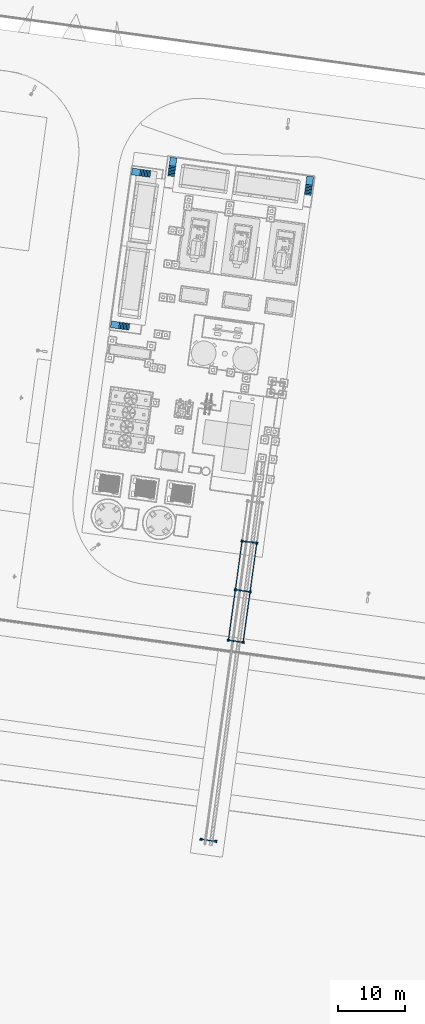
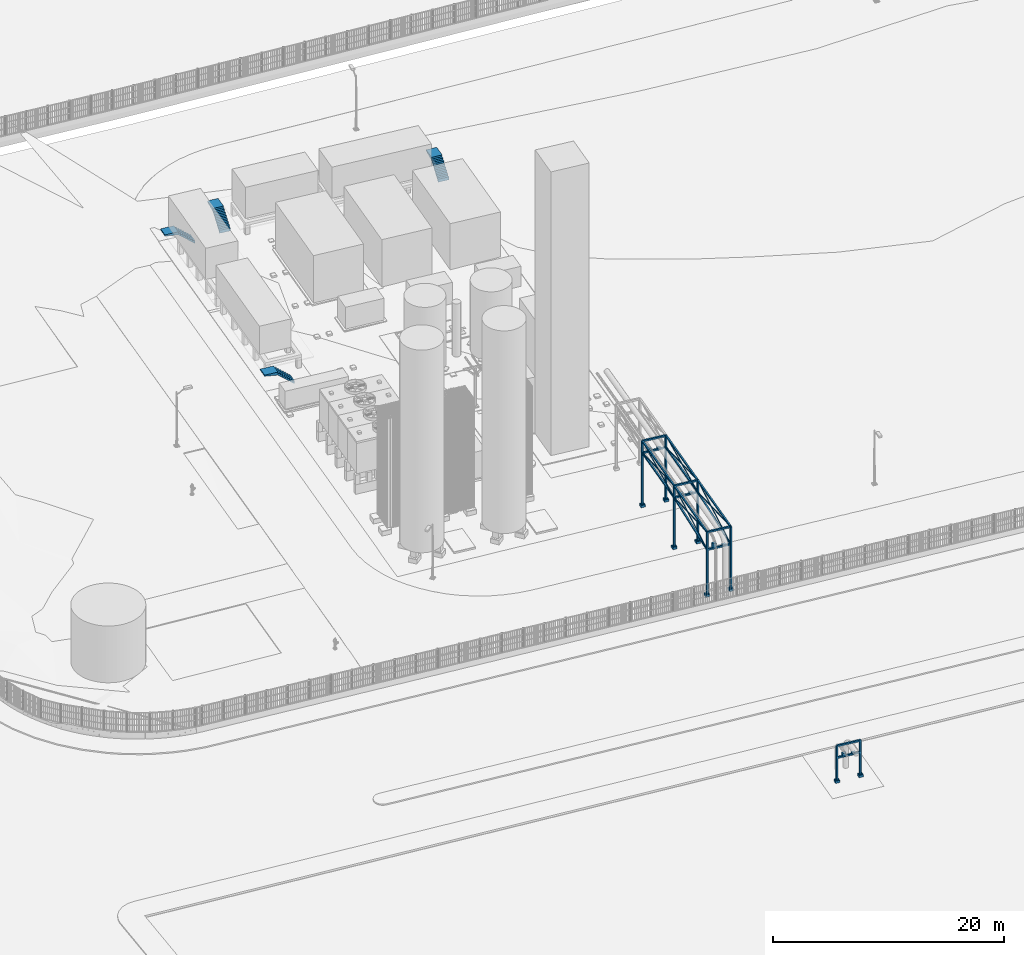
# Not in any storey, part 23 of 75: 6 assemblies, 4 stair flights.
"""IFC4 model written with IfcOpenShell, lengths in metres."""

from ifc_helpers import new_model, si_unit, direction, origin, origin_with_axes, place, context, subcontext, project, spatial, triangles, element, save


model = new_model("IFC4")

# Units and contexts
model_context = context("Model", 3, precision=1e-05, world=origin_with_axes(), true_north=direction((0.0, 1.0)))
body_context = subcontext(model_context, "Body", "Model", "MODEL_VIEW")
ifc_project = project(units=[si_unit("AREAUNIT", "SQUARE_METRE"), si_unit("VOLUMEUNIT", "CUBIC_METRE"), si_unit("LENGTHUNIT", "METRE")], contexts=[model_context])

# Site
site_placement = place(None, origin_with_axes())
site = spatial("IfcSite", under=ifc_project, at=site_placement, Name="Parcela industrial Jinhong")

# Stair flights
stair_flight_1_placement = place(None, origin())
element("IfcStairFlight", 1, at=stair_flight_1_placement, inside=site, Name="Cimentación y plataforma del módulo LV-CONTAINER · escalera de acceso · 8 contrahuellas", ObjectType="Cimentación industrial", PredefinedType="USERDEFINED", context=body_context, shape_type="Tessellation", body=[
    triangles([(41.107362, 82.889179, 2.281109), (41.325311, 82.859214, 2.4125), (41.325311, 82.859214, 2.225), (41.543261, 82.82925, 2.225), (41.543261, 82.82925, 2.0375), (41.761211, 82.799285, 2.0375), (41.761211, 82.799285, 1.85), (41.979161, 82.76932, 1.85), (41.979161, 82.76932, 1.6625), (42.197111, 82.739355, 1.6625), (42.197111, 82.739355, 1.475), (42.41506, 82.70939, 1.475), (42.41506, 82.70939, 1.2875), (42.63301, 82.679425, 1.2875), (42.63301, 82.679425, 0.968609), (41.107362, 82.889179, 2.6), (39.869011, 83.059434, 2.48), (39.869011, 83.059434, 2.6), (41.107362, 82.889179, 2.4125), (41.243566, 83.87986, 2.281109), (41.461515, 83.849895, 2.4125), (41.461515, 83.849895, 2.225), (41.679465, 83.81993, 2.225), (41.679465, 83.81993, 2.0375), (41.897415, 83.789966, 2.0375), (41.897415, 83.789966, 1.85), (42.115365, 83.760001, 1.85), (42.115365, 83.760001, 1.6625), (42.333314, 83.730036, 1.6625), (42.333314, 83.730036, 1.475), (42.551264, 83.700071, 1.475), (42.551264, 83.700071, 1.2875), (42.769214, 83.670106, 1.2875), (42.769214, 83.670106, 0.968609), (41.243566, 83.87986, 2.6), (40.005215, 84.050115, 2.48), (40.005215, 84.050115, 2.6), (41.243566, 83.87986, 2.4125)], [[3, 2, 1], [5, 4, 3], [7, 6, 5], [9, 8, 7], [11, 10, 9], [13, 12, 11], [15, 14, 13], [18, 17, 16], [19, 16, 17], [13, 11, 15], [1, 15, 9], [1, 19, 17], [11, 9, 15], [19, 1, 2], [1, 9, 7], [5, 3, 1], [1, 7, 5], [20, 21, 22], [22, 23, 24], [24, 25, 26], [26, 27, 28], [28, 29, 30], [30, 31, 32], [32, 33, 34], [35, 36, 37], [36, 35, 38], [34, 30, 32], [28, 34, 20], [36, 38, 20], [34, 28, 30], [21, 20, 38], [26, 28, 20], [20, 22, 24], [24, 26, 20], [2, 22, 21], [3, 22, 2], [3, 23, 22], [4, 23, 3], [4, 24, 23], [5, 24, 4], [5, 25, 24], [6, 25, 5], [6, 26, 25], [7, 26, 6], [7, 27, 26], [8, 27, 7], [8, 28, 27], [9, 28, 8], [9, 29, 28], [10, 29, 9], [10, 30, 29], [11, 30, 10], [11, 31, 30], [12, 31, 11], [12, 32, 31], [13, 32, 12], [13, 33, 32], [14, 33, 13], [15, 20, 34], [1, 20, 15], [14, 34, 33], [15, 34, 14], [1, 36, 20], [17, 36, 1], [18, 35, 37], [16, 35, 18], [17, 37, 36], [18, 37, 17], [19, 21, 38], [2, 21, 19], [16, 38, 35], [19, 38, 16]], closed=True),
])
stair_flight_2_placement = place(None, origin())
element("IfcStairFlight", 2, at=stair_flight_2_placement, inside=site, Name="Cimentación y plataforma del módulo HV-CONTAINER · escalera de acceso · 8 contrahuellas", ObjectType="Cimentación industrial", PredefinedType="USERDEFINED", context=body_context, shape_type="Tessellation", body=[
    triangles([(65.718009, 81.65057, 2.281109), (65.688044, 81.43262, 2.4125), (65.688044, 81.43262, 2.225), (65.658079, 81.21467, 2.225), (65.658079, 81.21467, 2.0375), (65.628115, 80.99672, 2.0375), (65.628115, 80.99672, 1.85), (65.59815, 80.778771, 1.85), (65.59815, 80.778771, 1.6625), (65.568185, 80.560821, 1.6625), (65.568185, 80.560821, 1.475), (65.53822, 80.342871, 1.475), (65.53822, 80.342871, 1.2875), (65.508255, 80.124921, 1.2875), (65.508255, 80.124921, 0.968609), (65.718009, 81.65057, 2.6), (65.888264, 82.888921, 2.48), (65.888264, 82.888921, 2.6), (65.718009, 81.65057, 2.4125), (66.70869, 81.514366, 2.281109), (66.678725, 81.296416, 2.4125), (66.678725, 81.296416, 2.225), (66.64876, 81.078466, 2.225), (66.64876, 81.078466, 2.0375), (66.618795, 80.860516, 2.0375), (66.618795, 80.860516, 1.85), (66.588831, 80.642567, 1.85), (66.588831, 80.642567, 1.6625), (66.558866, 80.424617, 1.6625), (66.558866, 80.424617, 1.475), (66.528901, 80.206667, 1.475), (66.528901, 80.206667, 1.2875), (66.498936, 79.988717, 1.2875), (66.498936, 79.988717, 0.968609), (66.70869, 81.514366, 2.6), (66.878945, 82.752717, 2.48), (66.878945, 82.752717, 2.6), (66.70869, 81.514366, 2.4125)], [[3, 2, 1], [5, 4, 3], [7, 6, 5], [9, 8, 7], [11, 10, 9], [13, 12, 11], [15, 14, 13], [18, 17, 16], [19, 16, 17], [13, 11, 15], [1, 15, 9], [1, 19, 17], [11, 9, 15], [19, 1, 2], [1, 9, 7], [5, 3, 1], [1, 7, 5], [20, 21, 22], [22, 23, 24], [24, 25, 26], [26, 27, 28], [28, 29, 30], [30, 31, 32], [32, 33, 34], [35, 36, 37], [36, 35, 38], [34, 30, 32], [28, 34, 20], [36, 38, 20], [34, 28, 30], [21, 20, 38], [26, 28, 20], [20, 22, 24], [24, 26, 20], [2, 22, 21], [3, 22, 2], [3, 23, 22], [4, 23, 3], [4, 24, 23], [5, 24, 4], [5, 25, 24], [6, 25, 5], [6, 26, 25], [7, 26, 6], [7, 27, 26], [8, 27, 7], [8, 28, 27], [9, 28, 8], [9, 29, 28], [10, 29, 9], [10, 30, 29], [11, 30, 10], [11, 31, 30], [12, 31, 11], [12, 32, 31], [13, 32, 12], [13, 33, 32], [14, 33, 13], [15, 20, 34], [1, 20, 15], [14, 34, 33], [15, 34, 14], [1, 36, 20], [17, 36, 1], [18, 35, 37], [16, 35, 18], [17, 37, 36], [18, 37, 17], [19, 21, 38], [2, 21, 19], [16, 38, 35], [19, 38, 16]], closed=True),
])
stair_flight_3_placement = place(None, origin())
element("IfcStairFlight", 3, at=stair_flight_3_placement, inside=site, Name="Cimentación y plataforma del módulo IC-CONTAINER · escalera de acceso · 8 contrahuellas", ObjectType="Cimentación industrial", PredefinedType="USERDEFINED", context=body_context, shape_type="Tessellation", body=[
    triangles([(37.991697, 60.227356, 2.281109), (38.209647, 60.197391, 2.4125), (38.209647, 60.197391, 2.225), (38.427596, 60.167426, 2.225), (38.427596, 60.167426, 2.0375), (38.645546, 60.137461, 2.0375), (38.645546, 60.137461, 1.85), (38.863496, 60.107496, 1.85), (38.863496, 60.107496, 1.6625), (39.081446, 60.077531, 1.6625), (39.081446, 60.077531, 1.475), (39.299396, 60.047566, 1.475), (39.299396, 60.047566, 1.2875), (39.517345, 60.017602, 1.2875), (39.517345, 60.017602, 0.968609), (37.991697, 60.227356, 2.6), (36.753346, 60.39761, 2.48), (36.753346, 60.39761, 2.6), (37.991697, 60.227356, 2.4125), (38.127901, 61.218036, 2.281109), (38.345851, 61.188072, 2.4125), (38.345851, 61.188072, 2.225), (38.5638, 61.158107, 2.225), (38.5638, 61.158107, 2.0375), (38.78175, 61.128142, 2.0375), (38.78175, 61.128142, 1.85), (38.9997, 61.098177, 1.85), (38.9997, 61.098177, 1.6625), (39.21765, 61.068212, 1.6625), (39.21765, 61.068212, 1.475), (39.435599, 61.038247, 1.475), (39.435599, 61.038247, 1.2875), (39.653549, 61.008282, 1.2875), (39.653549, 61.008282, 0.968609), (38.127901, 61.218036, 2.6), (36.88955, 61.388291, 2.48), (36.88955, 61.388291, 2.6), (38.127901, 61.218036, 2.4125)], [[3, 2, 1], [5, 4, 3], [7, 6, 5], [9, 8, 7], [11, 10, 9], [13, 12, 11], [15, 14, 13], [18, 17, 16], [19, 16, 17], [13, 11, 15], [1, 15, 9], [1, 19, 17], [11, 9, 15], [19, 1, 2], [1, 9, 7], [5, 3, 1], [1, 7, 5], [20, 21, 22], [22, 23, 24], [24, 25, 26], [26, 27, 28], [28, 29, 30], [30, 31, 32], [32, 33, 34], [35, 36, 37], [36, 35, 38], [34, 30, 32], [28, 34, 20], [36, 38, 20], [34, 28, 30], [21, 20, 38], [26, 28, 20], [20, 22, 24], [24, 26, 20], [2, 22, 21], [3, 22, 2], [3, 23, 22], [4, 23, 3], [4, 24, 23], [5, 24, 4], [5, 25, 24], [6, 25, 5], [6, 26, 25], [7, 26, 6], [7, 27, 26], [8, 27, 7], [8, 28, 27], [9, 28, 8], [9, 29, 28], [10, 29, 9], [10, 30, 29], [11, 30, 10], [11, 31, 30], [12, 31, 11], [12, 32, 31], [13, 32, 12], [13, 33, 32], [14, 33, 13], [15, 20, 34], [1, 20, 15], [14, 34, 33], [15, 34, 14], [1, 36, 20], [17, 36, 1], [18, 35, 37], [16, 35, 18], [17, 37, 36], [18, 37, 17], [19, 21, 38], [2, 21, 19], [16, 38, 35], [19, 38, 16]], closed=True),
])
stair_flight_4_placement = place(None, origin())
element("IfcStairFlight", 4, at=stair_flight_4_placement, inside=site, Name="Cimentación y plataforma del módulo MV-CONTAINER · escalera de acceso · 8 contrahuellas", ObjectType="Cimentación industrial", PredefinedType="USERDEFINED", context=body_context, shape_type="Tessellation", body=[
    triangles([(45.458091, 84.436008, 2.281109), (45.428126, 84.218058, 2.4125), (45.428126, 84.218058, 2.225), (45.398161, 84.000109, 2.225), (45.398161, 84.000109, 2.0375), (45.368196, 83.782159, 2.0375), (45.368196, 83.782159, 1.85), (45.338232, 83.564209, 1.85), (45.338232, 83.564209, 1.6625), (45.308267, 83.346259, 1.6625), (45.308267, 83.346259, 1.475), (45.278302, 83.128309, 1.475), (45.278302, 83.128309, 1.2875), (45.248337, 82.91036, 1.2875), (45.248337, 82.91036, 0.968609), (45.458091, 84.436008, 2.6), (45.628346, 85.674359, 2.48), (45.628346, 85.674359, 2.6), (45.458091, 84.436008, 2.4125), (46.448772, 84.299804, 2.281109), (46.418807, 84.081854, 2.4125), (46.418807, 84.081854, 2.225), (46.388842, 83.863905, 2.225), (46.388842, 83.863905, 2.0375), (46.358877, 83.645955, 2.0375), (46.358877, 83.645955, 1.85), (46.328912, 83.428005, 1.85), (46.328912, 83.428005, 1.6625), (46.298948, 83.210055, 1.6625), (46.298948, 83.210055, 1.475), (46.268983, 82.992105, 1.475), (46.268983, 82.992105, 1.2875), (46.239018, 82.774156, 1.2875), (46.239018, 82.774156, 0.968609), (46.448772, 84.299804, 2.6), (46.619027, 85.538155, 2.48), (46.619027, 85.538155, 2.6), (46.448772, 84.299804, 2.4125)], [[3, 2, 1], [5, 4, 3], [7, 6, 5], [9, 8, 7], [11, 10, 9], [13, 12, 11], [15, 14, 13], [18, 17, 16], [19, 16, 17], [13, 11, 15], [1, 15, 9], [1, 19, 17], [11, 9, 15], [19, 1, 2], [1, 9, 7], [5, 3, 1], [1, 7, 5], [20, 21, 22], [22, 23, 24], [24, 25, 26], [26, 27, 28], [28, 29, 30], [30, 31, 32], [32, 33, 34], [35, 36, 37], [36, 35, 38], [34, 30, 32], [28, 34, 20], [36, 38, 20], [34, 28, 30], [21, 20, 38], [26, 28, 20], [20, 22, 24], [24, 26, 20], [2, 22, 21], [3, 22, 2], [3, 23, 22], [4, 23, 3], [4, 24, 23], [5, 24, 4], [5, 25, 24], [6, 25, 5], [6, 26, 25], [7, 26, 6], [7, 27, 26], [8, 27, 7], [8, 28, 27], [9, 28, 8], [9, 29, 28], [10, 29, 9], [10, 30, 29], [11, 30, 10], [11, 31, 30], [12, 31, 11], [12, 32, 31], [13, 32, 12], [13, 33, 32], [14, 33, 13], [15, 20, 34], [1, 20, 15], [14, 34, 33], [15, 34, 14], [1, 36, 20], [17, 36, 1], [18, 35, 37], [16, 35, 18], [17, 37, 36], [18, 37, 17], [19, 21, 38], [2, 21, 19], [16, 38, 35], [19, 38, 16]], closed=True),
])

# Assemblies
assembly_1_placement = place(None, origin())
element("IfcElementAssembly", 5, at=assembly_1_placement, inside=site, Name="Pórtico metálico de tuberías · 2", ObjectType="Pórtico metálico de tuberías · 2", PredefinedType="USERDEFINED", context=body_context, shape_type="Tessellation", body=[
    triangles([(56.104909, 28.987031, 1.1), (56.104909, 28.987031, 1.34), (56.501182, 28.93255, 1.1), (56.501182, 28.93255, 1.34), (56.050428, 28.590759, 1.1), (56.050428, 28.590759, 1.34), (56.4467, 28.536277, 1.1), (56.4467, 28.536277, 1.34)], [[2, 4, 1], [5, 2, 1], [1, 4, 3], [3, 5, 1], [2, 8, 4], [6, 2, 5], [6, 8, 2], [4, 8, 3], [7, 5, 3], [3, 8, 7], [7, 6, 5], [8, 6, 7]], closed=True),
    triangles([(56.195805, 28.681654, 1.34), (56.195805, 28.681654, 8.0), (56.195805, 28.841654, 1.34), (56.195805, 28.841654, 8.0), (56.355805, 28.681654, 1.34), (56.355805, 28.681654, 8.0), (56.355805, 28.841654, 1.34), (56.355805, 28.841654, 8.0)], [[2, 4, 1], [5, 2, 1], [1, 4, 3], [3, 5, 1], [2, 8, 4], [6, 2, 5], [6, 8, 2], [4, 8, 3], [7, 5, 3], [3, 8, 7], [7, 6, 5], [8, 6, 7]], closed=True),
    triangles([(56.156178, 28.919418, 1.34), (56.156178, 28.919418, 1.37), (56.433568, 28.881281, 1.34), (56.433568, 28.881281, 1.37), (56.118041, 28.642028, 1.34), (56.118041, 28.642028, 1.37), (56.395431, 28.60389, 1.34), (56.395431, 28.60389, 1.37)], [[2, 4, 1], [5, 2, 1], [1, 4, 3], [3, 5, 1], [2, 8, 4], [6, 2, 5], [6, 8, 2], [4, 8, 3], [7, 5, 3], [3, 8, 7], [7, 6, 5], [8, 6, 7]], closed=True),
    triangles([(58.284407, 28.687383, 1.1), (58.284407, 28.687383, 1.34), (58.680679, 28.632901, 1.1), (58.680679, 28.632901, 1.34), (58.229925, 28.29111, 1.1), (58.229925, 28.29111, 1.34), (58.626198, 28.236629, 1.1), (58.626198, 28.236629, 1.34)], [[2, 4, 1], [5, 2, 1], [1, 4, 3], [3, 5, 1], [2, 8, 4], [6, 2, 5], [6, 8, 2], [4, 8, 3], [7, 5, 3], [3, 8, 7], [7, 6, 5], [8, 6, 7]], closed=True),
    triangles([(58.375302, 28.382006, 1.34), (58.375302, 28.382006, 8.0), (58.375302, 28.542006, 1.34), (58.375302, 28.542006, 8.0), (58.535302, 28.382006, 1.34), (58.535302, 28.382006, 8.0), (58.535302, 28.542006, 1.34), (58.535302, 28.542006, 8.0)], [[2, 4, 1], [5, 2, 1], [1, 4, 3], [3, 5, 1], [2, 8, 4], [6, 2, 5], [6, 8, 2], [4, 8, 3], [7, 5, 3], [3, 8, 7], [7, 6, 5], [8, 6, 7]], closed=True),
    triangles([(58.335676, 28.61977, 1.34), (58.335676, 28.61977, 1.37), (58.613066, 28.581633, 1.34), (58.613066, 28.581633, 1.37), (58.297539, 28.342379, 1.34), (58.297539, 28.342379, 1.37), (58.574929, 28.304242, 1.34), (58.574929, 28.304242, 1.37)], [[2, 4, 1], [5, 2, 1], [1, 4, 3], [3, 5, 1], [2, 8, 4], [6, 2, 5], [6, 8, 2], [4, 8, 3], [7, 5, 3], [3, 8, 7], [7, 6, 5], [8, 6, 7]], closed=True),
    triangles([(56.264908, 28.6824, 6.83), (58.444406, 28.382751, 6.83), (56.286701, 28.840909, 6.83), (58.466199, 28.54126, 6.83), (56.264908, 28.6824, 6.67), (58.444406, 28.382751, 6.67), (56.286701, 28.840909, 6.67), (58.466199, 28.54126, 6.67)], [[2, 4, 1], [5, 2, 1], [1, 4, 3], [3, 5, 1], [2, 8, 4], [6, 2, 5], [6, 8, 2], [4, 8, 3], [7, 5, 3], [3, 8, 7], [7, 6, 5], [8, 6, 7]], closed=True),
    triangles([(56.264908, 28.6824, 8.08), (58.444406, 28.382751, 8.08), (56.286701, 28.840909, 8.08), (58.466199, 28.54126, 8.08), (56.264908, 28.6824, 7.92), (58.444406, 28.382751, 7.92), (56.286701, 28.840909, 7.92), (58.466199, 28.54126, 7.92)], [[2, 4, 1], [5, 2, 1], [1, 4, 3], [3, 5, 1], [2, 8, 4], [6, 2, 5], [6, 8, 2], [4, 8, 3], [7, 5, 3], [3, 8, 7], [7, 6, 5], [8, 6, 7]], closed=True),
    triangles([(57.660651, 28.702481, 6.83), (57.660651, 28.702481, 6.95), (57.997482, 28.656172, 6.83), (57.997482, 28.656172, 6.95), (57.625238, 28.444904, 6.83), (57.625238, 28.444904, 6.95), (57.962069, 28.398595, 6.83), (57.962069, 28.398595, 6.95)], [[2, 4, 1], [5, 2, 1], [1, 4, 3], [3, 5, 1], [2, 8, 4], [6, 2, 5], [6, 8, 2], [4, 8, 3], [7, 5, 3], [3, 8, 7], [7, 6, 5], [8, 6, 7]], closed=True),
    triangles([(56.769038, 28.825065, 6.83), (56.769038, 28.825065, 7.1), (57.105869, 28.778756, 6.83), (57.105869, 28.778756, 7.1), (56.733625, 28.567488, 6.83), (56.733625, 28.567488, 7.1), (57.070456, 28.521179, 6.83), (57.070456, 28.521179, 7.1)], [[2, 4, 1], [5, 2, 1], [1, 4, 3], [3, 5, 1], [2, 8, 4], [6, 2, 5], [6, 8, 2], [4, 8, 3], [7, 5, 3], [3, 8, 7], [7, 6, 5], [8, 6, 7]], closed=True),
])
assembly_2_placement = place(None, origin())
element("IfcElementAssembly", 6, at=assembly_2_placement, inside=site, Name="Pórtico metálico de tuberías · 3", ObjectType="Pórtico metálico de tuberías · 3", PredefinedType="USERDEFINED", context=body_context, shape_type="Tessellation", body=[
    triangles([(55.110621, 21.755061, 1.401735), (55.110621, 21.755061, 1.641735), (55.506893, 21.70058, 1.401735), (55.506893, 21.70058, 1.641735), (55.056139, 21.358789, 1.401735), (55.056139, 21.358789, 1.641735), (55.452412, 21.304307, 1.401735), (55.452412, 21.304307, 1.641735)], [[2, 4, 1], [5, 2, 1], [1, 4, 3], [3, 5, 1], [2, 8, 4], [6, 2, 5], [6, 8, 2], [4, 8, 3], [7, 5, 3], [3, 8, 7], [7, 6, 5], [8, 6, 7]], closed=True),
    triangles([(55.201516, 21.449684, 1.641735), (55.201516, 21.449684, 8.0), (55.201516, 21.609684, 1.641735), (55.201516, 21.609684, 8.0), (55.361516, 21.449684, 1.641735), (55.361516, 21.449684, 8.0), (55.361516, 21.609684, 1.641735), (55.361516, 21.609684, 8.0)], [[2, 4, 1], [5, 2, 1], [1, 4, 3], [3, 5, 1], [2, 8, 4], [6, 2, 5], [6, 8, 2], [4, 8, 3], [7, 5, 3], [3, 8, 7], [7, 6, 5], [8, 6, 7]], closed=True),
    triangles([(55.161889, 21.687448, 1.641735), (55.161889, 21.687448, 1.671735), (55.43928, 21.649311, 1.641735), (55.43928, 21.649311, 1.671735), (55.123752, 21.410058, 1.641735), (55.123752, 21.410058, 1.671735), (55.401143, 21.37192, 1.641735), (55.401143, 21.37192, 1.671735)], [[2, 4, 1], [5, 2, 1], [1, 4, 3], [3, 5, 1], [2, 8, 4], [6, 2, 5], [6, 8, 2], [4, 8, 3], [7, 5, 3], [3, 8, 7], [7, 6, 5], [8, 6, 7]], closed=True),
    triangles([(57.290119, 21.455413, 1.420496), (57.290119, 21.455413, 1.660496), (57.686391, 21.400931, 1.420496), (57.686391, 21.400931, 1.660496), (57.235637, 21.05914, 1.420496), (57.235637, 21.05914, 1.660496), (57.631909, 21.004659, 1.420496), (57.631909, 21.004659, 1.660496)], [[2, 4, 1], [5, 2, 1], [1, 4, 3], [3, 5, 1], [2, 8, 4], [6, 2, 5], [6, 8, 2], [4, 8, 3], [7, 5, 3], [3, 8, 7], [7, 6, 5], [8, 6, 7]], closed=True),
    triangles([(57.381014, 21.150036, 1.660496), (57.381014, 21.150036, 8.0), (57.381014, 21.310036, 1.660496), (57.381014, 21.310036, 8.0), (57.541014, 21.150036, 1.660496), (57.541014, 21.150036, 8.0), (57.541014, 21.310036, 1.660496), (57.541014, 21.310036, 8.0)], [[2, 4, 1], [5, 2, 1], [1, 4, 3], [3, 5, 1], [2, 8, 4], [6, 2, 5], [6, 8, 2], [4, 8, 3], [7, 5, 3], [3, 8, 7], [7, 6, 5], [8, 6, 7]], closed=True),
    triangles([(57.341387, 21.3878, 1.660496), (57.341387, 21.3878, 1.690496), (57.618778, 21.349663, 1.660496), (57.618778, 21.349663, 1.690496), (57.30325, 21.110409, 1.660496), (57.30325, 21.110409, 1.690496), (57.580641, 21.072272, 1.660496), (57.580641, 21.072272, 1.690496)], [[2, 4, 1], [5, 2, 1], [1, 4, 3], [3, 5, 1], [2, 8, 4], [6, 2, 5], [6, 8, 2], [4, 8, 3], [7, 5, 3], [3, 8, 7], [7, 6, 5], [8, 6, 7]], closed=True),
    triangles([(55.27062, 21.45043, 6.83), (57.450118, 21.150781, 6.83), (55.292413, 21.608939, 6.83), (57.47191, 21.30929, 6.83), (55.27062, 21.45043, 6.67), (57.450118, 21.150781, 6.67), (55.292413, 21.608939, 6.67), (57.47191, 21.30929, 6.67)], [[2, 4, 1], [5, 2, 1], [1, 4, 3], [3, 5, 1], [2, 8, 4], [6, 2, 5], [6, 8, 2], [4, 8, 3], [7, 5, 3], [3, 8, 7], [7, 6, 5], [8, 6, 7]], closed=True),
    triangles([(55.27062, 21.45043, 8.08), (57.450118, 21.150781, 8.08), (55.292413, 21.608939, 8.08), (57.47191, 21.30929, 8.08), (55.27062, 21.45043, 7.92), (57.450118, 21.150781, 7.92), (55.292413, 21.608939, 7.92), (57.47191, 21.30929, 7.92)], [[2, 4, 1], [5, 2, 1], [1, 4, 3], [3, 5, 1], [2, 8, 4], [6, 2, 5], [6, 8, 2], [4, 8, 3], [7, 5, 3], [3, 8, 7], [7, 6, 5], [8, 6, 7]], closed=True),
    triangles([(56.666362, 21.470511, 6.83), (56.666362, 21.470511, 6.95), (57.003194, 21.424202, 6.83), (57.003194, 21.424202, 6.95), (56.630949, 21.212934, 6.83), (56.630949, 21.212934, 6.95), (56.967781, 21.166625, 6.83), (56.967781, 21.166625, 6.95)], [[2, 4, 1], [5, 2, 1], [1, 4, 3], [3, 5, 1], [2, 8, 4], [6, 2, 5], [6, 8, 2], [4, 8, 3], [7, 5, 3], [3, 8, 7], [7, 6, 5], [8, 6, 7]], closed=True),
    triangles([(55.77475, 21.593095, 6.83), (55.77475, 21.593095, 7.1), (56.111581, 21.546786, 6.83), (56.111581, 21.546786, 7.1), (55.739337, 21.335518, 6.83), (55.739337, 21.335518, 7.1), (56.076168, 21.289209, 6.83), (56.076168, 21.289209, 7.1)], [[2, 4, 1], [5, 2, 1], [1, 4, 3], [3, 5, 1], [2, 8, 4], [6, 2, 5], [6, 8, 2], [4, 8, 3], [7, 5, 3], [3, 8, 7], [7, 6, 5], [8, 6, 7]], closed=True),
])
assembly_3_placement = place(None, origin())
element("IfcElementAssembly", 7, at=assembly_3_placement, inside=site, Name="Pórtico metálico de tuberías · 4", ObjectType="Pórtico metálico de tuberías · 4", PredefinedType="USERDEFINED", context=body_context, shape_type="Tessellation", body=[
    triangles([(54.082282, 14.275421, 1.260606), (54.082282, 14.275421, 1.500606), (54.478554, 14.220939, 1.260606), (54.478554, 14.220939, 1.500606), (54.0278, 13.879149, 1.260606), (54.0278, 13.879149, 1.500606), (54.424072, 13.824667, 1.260606), (54.424072, 13.824667, 1.500606)], [[2, 4, 1], [5, 2, 1], [1, 4, 3], [3, 5, 1], [2, 8, 4], [6, 2, 5], [6, 8, 2], [4, 8, 3], [7, 5, 3], [3, 8, 7], [7, 6, 5], [8, 6, 7]], closed=True),
    triangles([(54.173177, 13.970044, 1.500606), (54.173177, 13.970044, 8.0), (54.173177, 14.130044, 1.500606), (54.173177, 14.130044, 8.0), (54.333177, 13.970044, 1.500606), (54.333177, 13.970044, 8.0), (54.333177, 14.130044, 1.500606), (54.333177, 14.130044, 8.0)], [[2, 4, 1], [5, 2, 1], [1, 4, 3], [3, 5, 1], [2, 8, 4], [6, 2, 5], [6, 8, 2], [4, 8, 3], [7, 5, 3], [3, 8, 7], [7, 6, 5], [8, 6, 7]], closed=True),
    triangles([(54.13355, 14.207808, 1.500606), (54.13355, 14.207808, 1.530606), (54.410941, 14.169671, 1.500606), (54.410941, 14.169671, 1.530606), (54.095413, 13.930417, 1.500606), (54.095413, 13.930417, 1.530606), (54.372804, 13.89228, 1.500606), (54.372804, 13.89228, 1.530606)], [[2, 4, 1], [5, 2, 1], [1, 4, 3], [3, 5, 1], [2, 8, 4], [6, 2, 5], [6, 8, 2], [4, 8, 3], [7, 5, 3], [3, 8, 7], [7, 6, 5], [8, 6, 7]], closed=True),
    triangles([(56.261779, 13.975772, 1.280845), (56.261779, 13.975772, 1.520845), (56.658052, 13.921291, 1.280845), (56.658052, 13.921291, 1.520845), (56.207298, 13.5795, 1.280845), (56.207298, 13.5795, 1.520845), (56.60357, 13.525019, 1.280845), (56.60357, 13.525019, 1.520845)], [[2, 4, 1], [5, 2, 1], [1, 4, 3], [3, 5, 1], [2, 8, 4], [6, 2, 5], [6, 8, 2], [4, 8, 3], [7, 5, 3], [3, 8, 7], [7, 6, 5], [8, 6, 7]], closed=True),
    triangles([(56.352675, 13.670395, 1.520845), (56.352675, 13.670395, 8.0), (56.352675, 13.830395, 1.520845), (56.352675, 13.830395, 8.0), (56.512675, 13.670395, 1.520845), (56.512675, 13.670395, 8.0), (56.512675, 13.830395, 1.520845), (56.512675, 13.830395, 8.0)], [[2, 4, 1], [5, 2, 1], [1, 4, 3], [3, 5, 1], [2, 8, 4], [6, 2, 5], [6, 8, 2], [4, 8, 3], [7, 5, 3], [3, 8, 7], [7, 6, 5], [8, 6, 7]], closed=True),
    triangles([(56.313048, 13.908159, 1.520845), (56.313048, 13.908159, 1.550845), (56.590439, 13.870022, 1.520845), (56.590439, 13.870022, 1.550845), (56.274911, 13.630769, 1.520845), (56.274911, 13.630769, 1.550845), (56.552302, 13.592632, 1.520845), (56.552302, 13.592632, 1.550845)], [[2, 4, 1], [5, 2, 1], [1, 4, 3], [3, 5, 1], [2, 8, 4], [6, 2, 5], [6, 8, 2], [4, 8, 3], [7, 5, 3], [3, 8, 7], [7, 6, 5], [8, 6, 7]], closed=True),
    triangles([(54.242281, 13.97079, 6.23), (56.421779, 13.671141, 6.23), (54.264073, 14.129298, 6.23), (56.443571, 13.82965, 6.23), (54.242281, 13.97079, 6.07), (56.421779, 13.671141, 6.07), (54.264073, 14.129298, 6.07), (56.443571, 13.82965, 6.07)], [[2, 4, 1], [5, 2, 1], [1, 4, 3], [3, 5, 1], [2, 8, 4], [6, 2, 5], [6, 8, 2], [4, 8, 3], [7, 5, 3], [3, 8, 7], [7, 6, 5], [8, 6, 7]], closed=True),
    triangles([(54.242281, 13.97079, 8.08), (56.421779, 13.671141, 8.08), (54.264073, 14.129298, 8.08), (56.443571, 13.82965, 8.08), (54.242281, 13.97079, 7.92), (56.421779, 13.671141, 7.92), (54.264073, 14.129298, 7.92), (56.443571, 13.82965, 7.92)], [[2, 4, 1], [5, 2, 1], [1, 4, 3], [3, 5, 1], [2, 8, 4], [6, 2, 5], [6, 8, 2], [4, 8, 3], [7, 5, 3], [3, 8, 7], [7, 6, 5], [8, 6, 7]], closed=True),
    triangles([(55.638023, 13.990871, 6.23), (55.638023, 13.990871, 6.347047), (55.974855, 13.944562, 6.23), (55.974855, 13.944562, 6.347047), (55.60261, 13.733294, 6.23), (55.60261, 13.733294, 6.347047), (55.939442, 13.686985, 6.23), (55.939442, 13.686985, 6.347047)], [[2, 4, 1], [5, 2, 1], [1, 4, 3], [3, 5, 1], [2, 8, 4], [6, 2, 5], [6, 8, 2], [4, 8, 3], [7, 5, 3], [3, 8, 7], [7, 6, 5], [8, 6, 7]], closed=True),
    triangles([(54.74641, 14.113455, 6.23), (54.74641, 14.113455, 6.701403), (55.083242, 14.067145, 6.23), (55.083242, 14.067145, 6.701403), (54.710997, 13.855878, 6.23), (54.710997, 13.855878, 6.701403), (55.047829, 13.809568, 6.23), (55.047829, 13.809568, 6.701403)], [[2, 4, 1], [5, 2, 1], [1, 4, 3], [3, 5, 1], [2, 8, 4], [6, 2, 5], [6, 8, 2], [4, 8, 3], [7, 5, 3], [3, 8, 7], [7, 6, 5], [8, 6, 7]], closed=True),
])
assembly_4_placement = place(None, origin())
element("IfcElementAssembly", 8, at=assembly_4_placement, inside=site, Name="Pórtico metálico de tuberías · salida exterior", ObjectType="Pórtico metálico de tuberías · salida exterior", PredefinedType="USERDEFINED", context=body_context, shape_type="Tessellation", body=[
    triangles([(50.024939, -15.235719, 0.89819), (50.024939, -15.235719, 1.13819), (50.421211, -15.290201, 0.89819), (50.421211, -15.290201, 1.13819), (49.970457, -15.631992, 0.89819), (49.970457, -15.631992, 1.13819), (50.36673, -15.686473, 0.89819), (50.36673, -15.686473, 1.13819)], [[2, 4, 1], [5, 2, 1], [1, 4, 3], [3, 5, 1], [2, 8, 4], [6, 2, 5], [6, 8, 2], [4, 8, 3], [7, 5, 3], [3, 8, 7], [7, 6, 5], [8, 6, 7]], closed=True),
    triangles([(50.115834, -15.541096, 1.13819), (50.115834, -15.541096, 4.717728), (50.115834, -15.381096, 1.13819), (50.115834, -15.381096, 4.717728), (50.275834, -15.541096, 1.13819), (50.275834, -15.541096, 4.717728), (50.275834, -15.381096, 1.13819), (50.275834, -15.381096, 4.717728)], [[2, 4, 1], [5, 2, 1], [1, 4, 3], [3, 5, 1], [2, 8, 4], [6, 2, 5], [6, 8, 2], [4, 8, 3], [7, 5, 3], [3, 8, 7], [7, 6, 5], [8, 6, 7]], closed=True),
    triangles([(50.076207, -15.303333, 1.13819), (50.076207, -15.303333, 1.16819), (50.353598, -15.34147, 1.13819), (50.353598, -15.34147, 1.16819), (50.03807, -15.580723, 1.13819), (50.03807, -15.580723, 1.16819), (50.315461, -15.61886, 1.13819), (50.315461, -15.61886, 1.16819)], [[2, 4, 1], [5, 2, 1], [1, 4, 3], [3, 5, 1], [2, 8, 4], [6, 2, 5], [6, 8, 2], [4, 8, 3], [7, 5, 3], [3, 8, 7], [7, 6, 5], [8, 6, 7]], closed=True),
    triangles([(52.204437, -15.535368, 0.922175), (52.204437, -15.535368, 1.162175), (52.600709, -15.58985, 0.922175), (52.600709, -15.58985, 1.162175), (52.149955, -15.93164, 0.922175), (52.149955, -15.93164, 1.162175), (52.546227, -15.986122, 0.922175), (52.546227, -15.986122, 1.162175)], [[2, 4, 1], [5, 2, 1], [1, 4, 3], [3, 5, 1], [2, 8, 4], [6, 2, 5], [6, 8, 2], [4, 8, 3], [7, 5, 3], [3, 8, 7], [7, 6, 5], [8, 6, 7]], closed=True),
    triangles([(52.295332, -15.840745, 1.162175), (52.295332, -15.840745, 4.717728), (52.295332, -15.680745, 1.162175), (52.295332, -15.680745, 4.717728), (52.455332, -15.840745, 1.162175), (52.455332, -15.840745, 4.717728), (52.455332, -15.680745, 1.162175), (52.455332, -15.680745, 4.717728)], [[2, 4, 1], [5, 2, 1], [1, 4, 3], [3, 5, 1], [2, 8, 4], [6, 2, 5], [6, 8, 2], [4, 8, 3], [7, 5, 3], [3, 8, 7], [7, 6, 5], [8, 6, 7]], closed=True),
    triangles([(52.255705, -15.602981, 1.162175), (52.255705, -15.602981, 1.192175), (52.533096, -15.641118, 1.162175), (52.533096, -15.641118, 1.192175), (52.217568, -15.880372, 1.162175), (52.217568, -15.880372, 1.192175), (52.494959, -15.918509, 1.162175), (52.494959, -15.918509, 1.192175)], [[2, 4, 1], [5, 2, 1], [1, 4, 3], [3, 5, 1], [2, 8, 4], [6, 2, 5], [6, 8, 2], [4, 8, 3], [7, 5, 3], [3, 8, 7], [7, 6, 5], [8, 6, 7]], closed=True),
    triangles([(50.184938, -15.540351, 3.547728), (52.364436, -15.839999, 3.547728), (50.206731, -15.381842, 3.547728), (52.386228, -15.68149, 3.547728), (50.184938, -15.540351, 3.387728), (52.364436, -15.839999, 3.387728), (50.206731, -15.381842, 3.387728), (52.386228, -15.68149, 3.387728)], [[2, 4, 1], [5, 2, 1], [1, 4, 3], [3, 5, 1], [2, 8, 4], [6, 2, 5], [6, 8, 2], [4, 8, 3], [7, 5, 3], [3, 8, 7], [7, 6, 5], [8, 6, 7]], closed=True),
    triangles([(50.184938, -15.540351, 4.797728), (52.364436, -15.839999, 4.797728), (50.206731, -15.381842, 4.797728), (52.386228, -15.68149, 4.797728), (50.184938, -15.540351, 4.637728), (52.364436, -15.839999, 4.637728), (50.206731, -15.381842, 4.637728), (52.386228, -15.68149, 4.637728)], [[2, 4, 1], [5, 2, 1], [1, 4, 3], [3, 5, 1], [2, 8, 4], [6, 2, 5], [6, 8, 2], [4, 8, 3], [7, 5, 3], [3, 8, 7], [7, 6, 5], [8, 6, 7]], closed=True),
    triangles([(51.58068, -15.520269, 3.547728), (51.58068, -15.520269, 3.667728), (51.917512, -15.566579, 3.547728), (51.917512, -15.566579, 3.667728), (51.545267, -15.777846, 3.547728), (51.545267, -15.777846, 3.667728), (51.882099, -15.824156, 3.547728), (51.882099, -15.824156, 3.667728)], [[2, 4, 1], [5, 2, 1], [1, 4, 3], [3, 5, 1], [2, 8, 4], [6, 2, 5], [6, 8, 2], [4, 8, 3], [7, 5, 3], [3, 8, 7], [7, 6, 5], [8, 6, 7]], closed=True),
    triangles([(50.689068, -15.397686, 3.547728), (50.689068, -15.397686, 3.817728), (51.025899, -15.443995, 3.547728), (51.025899, -15.443995, 3.817728), (50.653654, -15.655263, 3.547728), (50.653654, -15.655263, 3.817728), (50.990486, -15.701572, 3.547728), (50.990486, -15.701572, 3.817728)], [[2, 4, 1], [5, 2, 1], [1, 4, 3], [3, 5, 1], [2, 8, 4], [6, 2, 5], [6, 8, 2], [4, 8, 3], [7, 5, 3], [3, 8, 7], [7, 6, 5], [8, 6, 7]], closed=True),
])
assembly_5_placement = place(None, origin())
element("IfcElementAssembly", 9, at=assembly_5_placement, inside=site, Name="Vigas y arriostramiento lateral · tramo 2", ObjectType="Vigas y arriostramiento lateral · tramo 2", PredefinedType="USERDEFINED", context=body_context, shape_type="Tessellation", body=[
    triangles([(56.345152, 28.75212, 6.68), (55.350864, 21.52015, 6.68), (56.206457, 28.771189, 6.68), (55.212169, 21.539219, 6.68), (56.345152, 28.75212, 6.82), (55.350864, 21.52015, 6.82), (56.206457, 28.771189, 6.82), (55.212169, 21.539219, 6.82)], [[2, 4, 1], [5, 2, 1], [1, 4, 3], [3, 5, 1], [2, 8, 4], [6, 2, 5], [6, 8, 2], [4, 8, 3], [7, 5, 3], [3, 8, 7], [7, 6, 5], [8, 6, 7]], closed=True),
    triangles([(56.345152, 28.75212, 7.93), (55.350864, 21.52015, 7.93), (56.206457, 28.771189, 7.93), (55.212169, 21.539219, 7.93), (56.345152, 28.75212, 8.07), (55.350864, 21.52015, 8.07), (56.206457, 28.771189, 8.07), (55.212169, 21.539219, 8.07)], [[2, 4, 1], [5, 2, 1], [1, 4, 3], [3, 5, 1], [2, 8, 4], [6, 2, 5], [6, 8, 2], [4, 8, 3], [7, 5, 3], [3, 8, 7], [7, 6, 5], [8, 6, 7]], closed=True),
    triangles([(56.304074, 28.750991, 6.710794), (55.309786, 21.519021, 7.960794), (56.235721, 28.762147, 6.720964), (55.241433, 21.530177, 7.970964), (56.315888, 28.761162, 6.779036), (55.3216, 21.529192, 8.029036), (56.247535, 28.772318, 6.789206), (55.253247, 21.540347, 8.039206)], [[2, 4, 1], [5, 2, 1], [1, 4, 3], [3, 5, 1], [2, 8, 4], [6, 2, 5], [6, 8, 2], [4, 8, 3], [7, 5, 3], [3, 8, 7], [7, 6, 5], [8, 6, 7]], closed=True),
    triangles([(56.315888, 28.761162, 7.970964), (55.3216, 21.529192, 6.720964), (56.247535, 28.772318, 7.960794), (55.253247, 21.540347, 6.710794), (56.304074, 28.750991, 8.039206), (55.309786, 21.519021, 6.789206), (56.235721, 28.762147, 8.029036), (55.241433, 21.530177, 6.779036)], [[2, 4, 1], [5, 2, 1], [1, 4, 3], [3, 5, 1], [2, 8, 4], [6, 2, 5], [6, 8, 2], [4, 8, 3], [7, 5, 3], [3, 8, 7], [7, 6, 5], [8, 6, 7]], closed=True),
    triangles([(58.52465, 28.452472, 6.68), (57.530362, 21.220501, 6.68), (58.385955, 28.47154, 6.68), (57.391666, 21.23957, 6.68), (58.52465, 28.452472, 6.82), (57.530362, 21.220501, 6.82), (58.385955, 28.47154, 6.82), (57.391666, 21.23957, 6.82)], [[2, 4, 1], [5, 2, 1], [1, 4, 3], [3, 5, 1], [2, 8, 4], [6, 2, 5], [6, 8, 2], [4, 8, 3], [7, 5, 3], [3, 8, 7], [7, 6, 5], [8, 6, 7]], closed=True),
    triangles([(58.52465, 28.452472, 7.93), (57.530362, 21.220501, 7.93), (58.385955, 28.47154, 7.93), (57.391666, 21.23957, 7.93), (58.52465, 28.452472, 8.07), (57.530362, 21.220501, 8.07), (58.385955, 28.47154, 8.07), (57.391666, 21.23957, 8.07)], [[2, 4, 1], [5, 2, 1], [1, 4, 3], [3, 5, 1], [2, 8, 4], [6, 2, 5], [6, 8, 2], [4, 8, 3], [7, 5, 3], [3, 8, 7], [7, 6, 5], [8, 6, 7]], closed=True),
    triangles([(58.483572, 28.451343, 6.710794), (57.489283, 21.219373, 7.960794), (58.415219, 28.462498, 6.720964), (57.420931, 21.230528, 7.970964), (58.495386, 28.461514, 6.779036), (57.501098, 21.229543, 8.029036), (58.427033, 28.472669, 6.789206), (57.432745, 21.240699, 8.039206)], [[2, 4, 1], [5, 2, 1], [1, 4, 3], [3, 5, 1], [2, 8, 4], [6, 2, 5], [6, 8, 2], [4, 8, 3], [7, 5, 3], [3, 8, 7], [7, 6, 5], [8, 6, 7]], closed=True),
    triangles([(58.495386, 28.461514, 7.970964), (57.501098, 21.229543, 6.720964), (58.427033, 28.472669, 7.960794), (57.432745, 21.240699, 6.710794), (58.483572, 28.451343, 8.039206), (57.489283, 21.219373, 6.789206), (58.415219, 28.462498, 8.029036), (57.420931, 21.230528, 6.779036)], [[2, 4, 1], [5, 2, 1], [1, 4, 3], [3, 5, 1], [2, 8, 4], [6, 2, 5], [6, 8, 2], [4, 8, 3], [7, 5, 3], [3, 8, 7], [7, 6, 5], [8, 6, 7]], closed=True),
])
assembly_6_placement = place(None, origin())
element("IfcElementAssembly", 10, at=assembly_6_placement, inside=site, Name="Vigas y arriostramiento lateral · tramo 3", ObjectType="Vigas y arriostramiento lateral · tramo 3", PredefinedType="USERDEFINED", context=body_context, shape_type="Tessellation", body=[
    triangles([(55.356191, 21.524615, 6.685209), (54.327852, 14.044975, 6.085209), (55.217932, 21.544397, 6.675565), (54.189593, 14.064757, 6.075565), (55.345101, 21.514971, 6.824435), (54.316761, 14.035331, 6.224435), (55.206841, 21.534754, 6.814791), (54.178502, 14.055113, 6.214791)], [[2, 4, 1], [5, 2, 1], [1, 4, 3], [3, 5, 1], [2, 8, 4], [6, 2, 5], [6, 8, 2], [4, 8, 3], [7, 5, 3], [3, 8, 7], [7, 6, 5], [8, 6, 7]], closed=True),
    triangles([(55.350864, 21.52015, 7.93), (54.322525, 14.04051, 7.93), (55.212169, 21.539219, 7.93), (54.183829, 14.059578, 7.93), (55.350864, 21.52015, 8.07), (54.322525, 14.04051, 8.07), (55.212169, 21.539219, 8.07), (54.183829, 14.059578, 8.07)], [[2, 4, 1], [5, 2, 1], [1, 4, 3], [3, 5, 1], [2, 8, 4], [6, 2, 5], [6, 8, 2], [4, 8, 3], [7, 5, 3], [3, 8, 7], [7, 6, 5], [8, 6, 7]], closed=True),
    triangles([(55.310008, 21.519232, 6.710898), (54.281668, 14.039592, 7.960898), (55.241591, 21.530285, 6.720749), (54.213252, 14.050645, 7.970749), (55.321441, 21.529084, 6.779251), (54.293102, 14.049443, 8.029251), (55.253025, 21.540136, 6.789102), (54.224686, 14.060496, 8.039102)], [[2, 4, 1], [5, 2, 1], [1, 4, 3], [3, 5, 1], [2, 8, 4], [6, 2, 5], [6, 8, 2], [4, 8, 3], [7, 5, 3], [3, 8, 7], [7, 6, 5], [8, 6, 7]], closed=True),
    triangles([(55.323524, 21.530382, 7.973829), (54.295184, 14.050742, 6.123829), (55.256168, 21.543144, 7.959672), (54.227829, 14.063504, 6.109672), (55.306864, 21.516225, 8.040328), (54.278525, 14.036584, 6.190328), (55.239509, 21.528987, 8.026171), (54.21117, 14.049346, 6.176171)], [[2, 4, 1], [5, 2, 1], [1, 4, 3], [3, 5, 1], [2, 8, 4], [6, 2, 5], [6, 8, 2], [4, 8, 3], [7, 5, 3], [3, 8, 7], [7, 6, 5], [8, 6, 7]], closed=True),
    triangles([(57.535689, 21.224966, 6.685209), (56.50735, 13.745326, 6.085209), (57.39743, 21.244749, 6.675565), (56.369091, 13.765108, 6.075565), (57.524598, 21.215323, 6.824435), (56.496259, 13.735683, 6.224435), (57.386339, 21.235105, 6.814791), (56.358, 13.755465, 6.214791)], [[2, 4, 1], [5, 2, 1], [1, 4, 3], [3, 5, 1], [2, 8, 4], [6, 2, 5], [6, 8, 2], [4, 8, 3], [7, 5, 3], [3, 8, 7], [7, 6, 5], [8, 6, 7]], closed=True),
    triangles([(57.530362, 21.220501, 7.93), (56.502022, 13.740861, 7.93), (57.391666, 21.23957, 7.93), (56.363327, 13.75993, 7.93), (57.530362, 21.220501, 8.07), (56.502022, 13.740861, 8.07), (57.391666, 21.23957, 8.07), (56.363327, 13.75993, 8.07)], [[2, 4, 1], [5, 2, 1], [1, 4, 3], [3, 5, 1], [2, 8, 4], [6, 2, 5], [6, 8, 2], [4, 8, 3], [7, 5, 3], [3, 8, 7], [7, 6, 5], [8, 6, 7]], closed=True),
    triangles([(57.489505, 21.219584, 6.710898), (56.461166, 13.739944, 7.960898), (57.421089, 21.230636, 6.720749), (56.39275, 13.750996, 7.970749), (57.500939, 21.229435, 6.779251), (56.4726, 13.749795, 8.029251), (57.432523, 21.240488, 6.789102), (56.404184, 13.760847, 8.039102)], [[2, 4, 1], [5, 2, 1], [1, 4, 3], [3, 5, 1], [2, 8, 4], [6, 2, 5], [6, 8, 2], [4, 8, 3], [7, 5, 3], [3, 8, 7], [7, 6, 5], [8, 6, 7]], closed=True),
    triangles([(57.503021, 21.230733, 7.973829), (56.474682, 13.751093, 6.123829), (57.435666, 21.243495, 7.959672), (56.407327, 13.763855, 6.109672), (57.486362, 21.216576, 8.040328), (56.458023, 13.736936, 6.190328), (57.419007, 21.229338, 8.026171), (56.390668, 13.749698, 6.176171)], [[2, 4, 1], [5, 2, 1], [1, 4, 3], [3, 5, 1], [2, 8, 4], [6, 2, 5], [6, 8, 2], [4, 8, 3], [7, 5, 3], [3, 8, 7], [7, 6, 5], [8, 6, 7]], closed=True),
])

save(model, "model.ifc")
